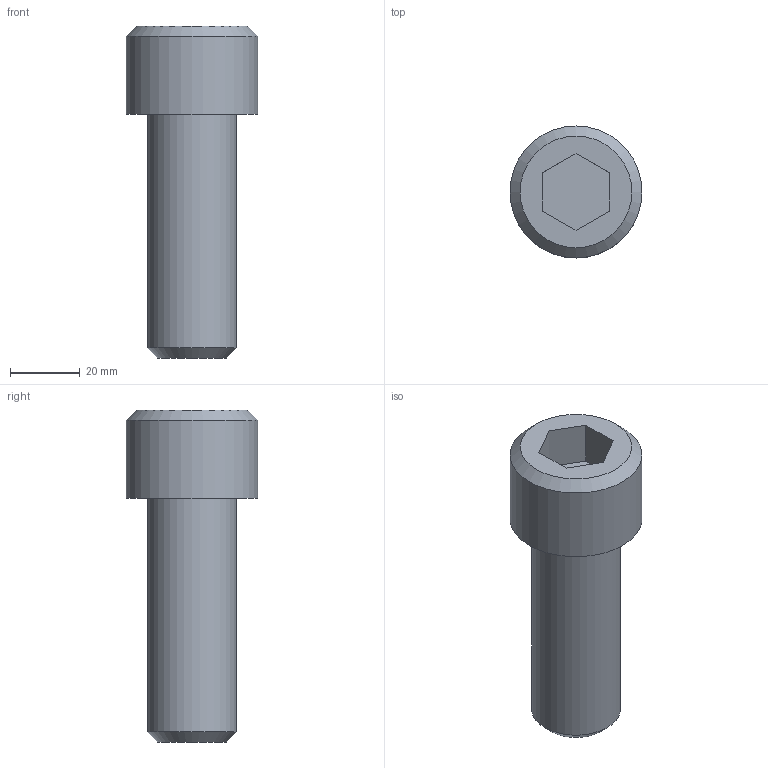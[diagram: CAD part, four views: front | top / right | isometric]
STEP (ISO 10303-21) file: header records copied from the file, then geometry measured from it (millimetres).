
FILE_DESCRIPTION((''),'2;1');
FILE_NAME('C:\Users\Stan\Desktop\import\SHCS 1-8 UNCx2.75.ipt.step','2011-08-18T17:44:13',(''),(''),'Autodesk Inventor 2012','Autodesk Inventor 2012','');
FILE_SCHEMA(('AUTOMOTIVE_DESIGN { 1 0 10303 214 1 1 1 1 }'));
Length unit declared in the file: inch
Products named in the file (1): SHCS 1-8 UNCx2.75
Bounding box: 37.8 x 37.8 x 95.1 mm (x, y, z)
Volume: 58986.5 mm3; surface area: 11286.6 mm2
Topology: 1 solids, 1 shells, 14 faces, 28 edges, 18 vertices
Faces by surface type: plane 10, cone 2, cylinder 2
Full cylindrical faces by diameter (mm): 25.4 x1, 37.795 x1
Entity records: 391 total; most frequent: DIRECTION 60, CARTESIAN_POINT 57, ORIENTED_EDGE 48, EDGE_CURVE 24, AXIS2_PLACEMENT_3D 21, EDGE_LOOP 20, VERTEX_POINT 18, VECTOR 18
